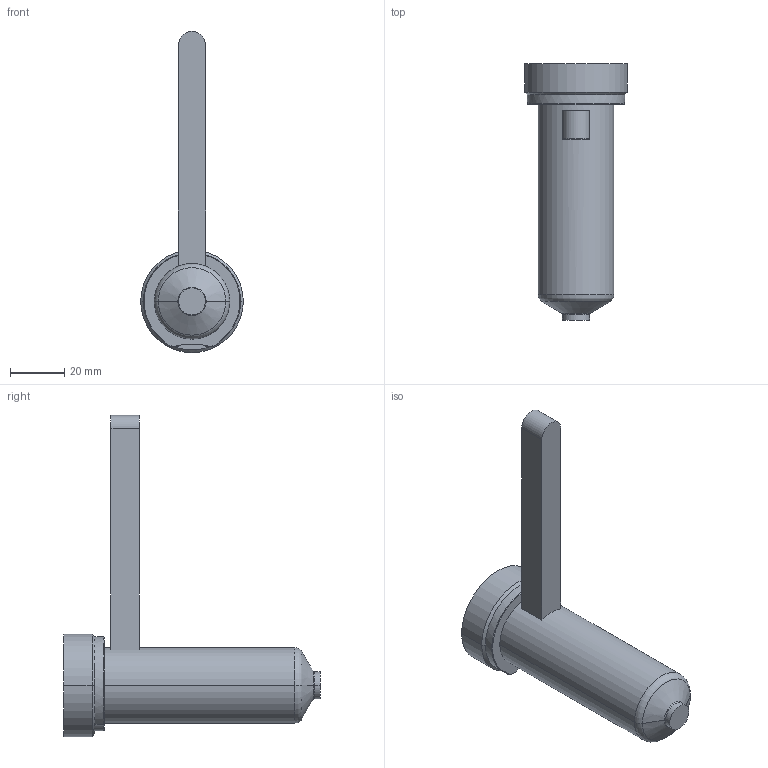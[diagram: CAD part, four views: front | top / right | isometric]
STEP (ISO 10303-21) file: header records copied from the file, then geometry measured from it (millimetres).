
FILE_DESCRIPTION((''),'2;1');
FILE_NAME('EO06_VG-FB_STD_080_COT','2024-02-19T13:23:56',('sundharh'),(''),'CREO PARAMETRIC BY PTC INC, 2023154','CREO PARAMETRIC BY PTC INC, 2023154','');
FILE_SCHEMA(('CONFIG_CONTROL_DESIGN'));
Length unit declared in the file: millimetre
Products named in the file (1): EO06_VG-FB_STD_080_COT
Bounding box: 38 x 95 x 119 mm (x, y, z)
Volume: 71710 mm3; surface area: 13932.2 mm2
Topology: 1 solids, 1 shells, 31 faces, 67 edges, 40 vertices
Faces by surface type: cylinder 11, plane 9, torus 7, cone 4
Entity records: 963 total; most frequent: CARTESIAN_POINT 230, DIRECTION 159, ORIENTED_EDGE 134, AXIS2_PLACEMENT_3D 67, EDGE_CURVE 67, VERTEX_POINT 40, CIRCLE 36, EDGE_LOOP 33
